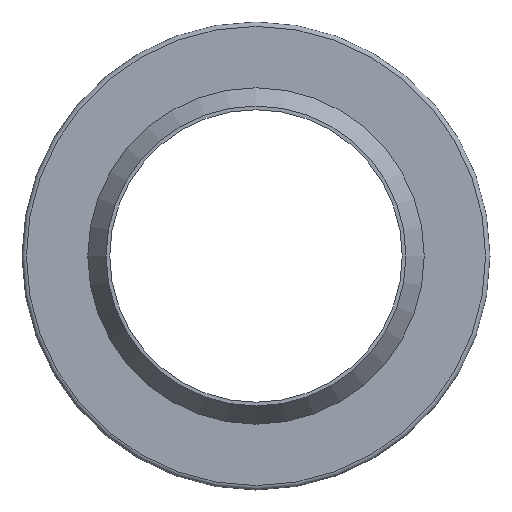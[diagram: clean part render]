
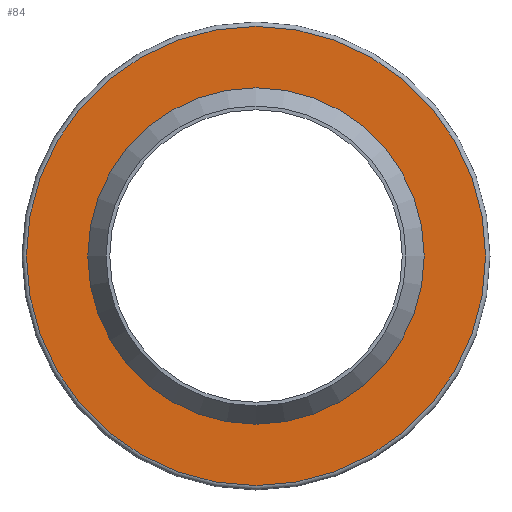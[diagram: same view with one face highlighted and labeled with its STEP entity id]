
A CAD part, left-side view. The second image highlights one B-rep face of the part: STEP entity #84.
In plain terms, the highlighted planar face has unit normal (-1, 0, 0).
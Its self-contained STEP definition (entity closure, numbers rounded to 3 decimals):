
#84=ADVANCED_FACE('',(#117,#118),#119,.T.);
#117=FACE_OUTER_BOUND('',#159,.T.);
#118=FACE_BOUND('',#160,.T.);
#119=PLANE('',#161);
#159=EDGE_LOOP('',(#219));
#160=EDGE_LOOP('',(#220));
#161=AXIS2_PLACEMENT_3D('',#221,#222,#223);
#219=ORIENTED_EDGE('',*,*,#254,.T.);
#220=ORIENTED_EDGE('',*,*,#253,.F.);
#221=CARTESIAN_POINT('',(-4.,11.5,0.0));
#222=DIRECTION('',(-1.0,0.0,0.0));
#223=DIRECTION('',(0.0,0.0,1.0));
#253=EDGE_CURVE('',#276,#276,#277,.T.);
#254=EDGE_CURVE('',#278,#278,#279,.T.);
#276=VERTEX_POINT('',#304);
#277=CIRCLE('',#305,11.5);
#278=VERTEX_POINT('',#306);
#279=CIRCLE('',#307,15.7);
#304=CARTESIAN_POINT('',(-4.,0.0,11.5));
#305=AXIS2_PLACEMENT_3D('',#341,#342,#343);
#306=CARTESIAN_POINT('',(-4.,0.0,15.7));
#307=AXIS2_PLACEMENT_3D('',#344,#345,#346);
#341=CARTESIAN_POINT('',(-4.,0.0,0.0));
#342=DIRECTION('',(-1.0,0.0,0.0));
#343=DIRECTION('',(0.0,0.0,1.0));
#344=CARTESIAN_POINT('',(-4.,0.0,0.0));
#345=DIRECTION('',(-1.0,0.0,0.0));
#346=DIRECTION('',(0.0,0.0,1.0));
